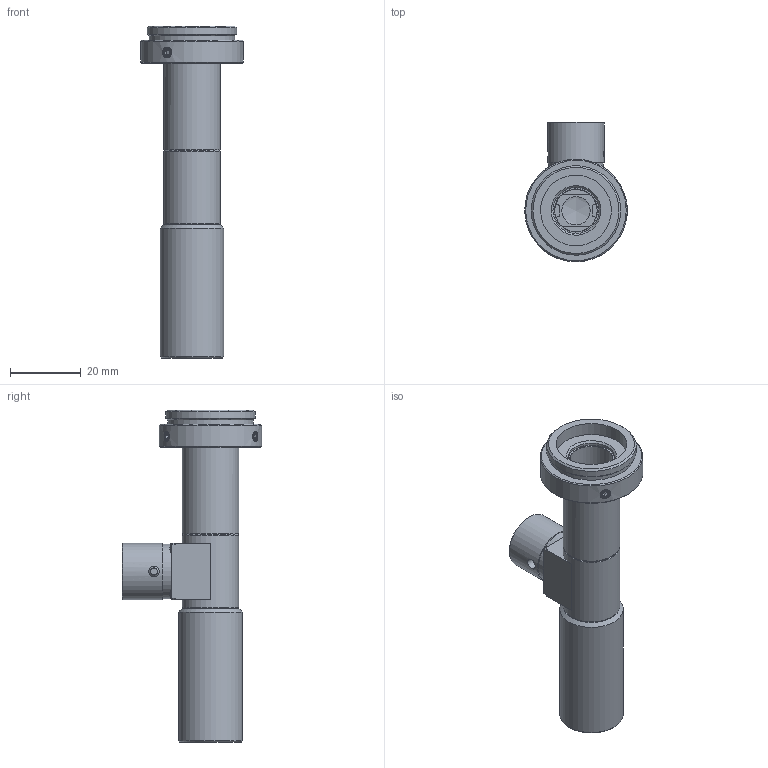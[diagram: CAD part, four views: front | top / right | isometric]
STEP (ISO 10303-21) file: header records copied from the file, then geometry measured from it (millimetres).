
FILE_DESCRIPTION(('STEP AP214'),'1');
FILE_NAME('RTK-08F-65.stp','2026-03-16T03:03:01',(' '),(' '),'Spatial InterOp 3D',' ',' ');
FILE_SCHEMA(('AUTOMOTIVE_DESIGN { 1 0 10303 214 1 1 1 1 }'));
Length unit declared in the file: metre
Products named in the file (2): RTK-08F-65; Component1
Assembly tree (1 placements, depth 2):
  RTK-08F-65
    Component1
Bounding box: 29.01 x 39.51 x 93.84 mm (x, y, z)
Volume: 14289.3 mm3; surface area: 13672.9 mm2
Topology: 1 solids, 13 shells, 336 faces, 801 edges, 523 vertices
Faces by surface type: plane 157, cone 92, cylinder 70, torus 8, sphere 6, bspline 3
Full cylindrical faces by diameter (mm): 1.7 x8, 1.8 x4, 2.5 x3, 3 x3, 6.5 x1, 8 x2, 9 x1, 10 x1, 12 x1, 13 x2, 13.049 x1, 13.4 x1, 13.5 x1, 13.7 x1, 14 x2, 14.105 x1, 14.2 x2, 15 x2, 15.5 x1, 15.9 x1, 16 x5, 16.77 x1, 18 x1, 20 x1, 24.12 x1, 25.32 x1, 29 x1
Entity records: 12188 total; most frequent: CARTESIAN_POINT 2366, DIRECTION 1516, ORIENTED_EDGE 1252, AXIS2_PLACEMENT_3D 642, EDGE_CURVE 626, EDGE_LOOP 504, VERTEX_POINT 471, FACE_OUTER_BOUND 397
